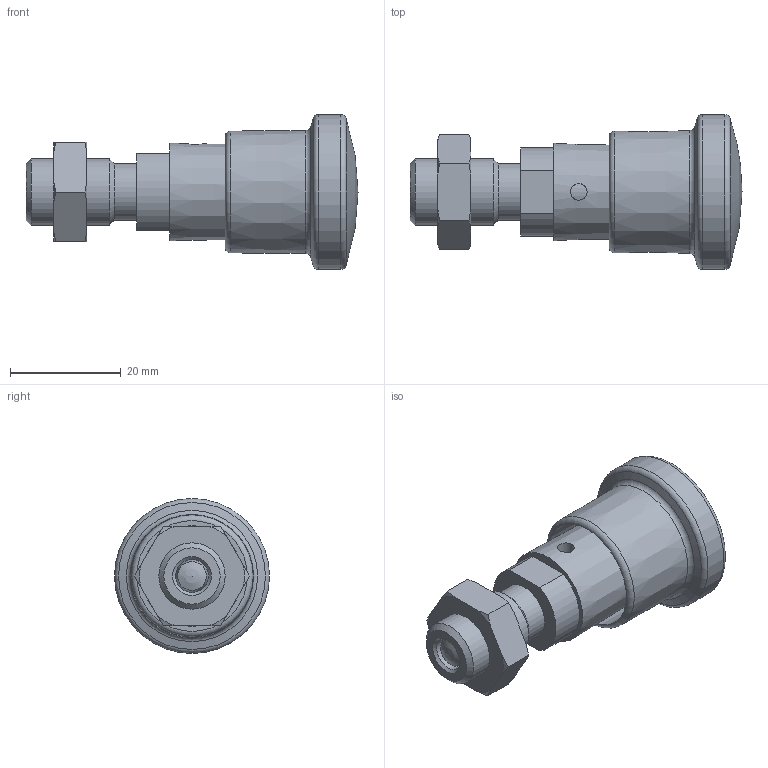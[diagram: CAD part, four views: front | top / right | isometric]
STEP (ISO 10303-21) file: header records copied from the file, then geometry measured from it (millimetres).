
FILE_DESCRIPTION( ( 'STEP AP203' ), '1' );
FILE_NAME( 'C:/Temp/Ganter_Step_05_03_2020/data/3_1/gn816_1/gn_816_1_ark/Locking plunger GN 816.1-6-M12x1,5-ARK (deactivated).stp', '2020-03-12T08:56:14', ( 'License CC BY-ND 4.0' ), ( 'CADENAS' ), ' ', 'PARTsolutions', ' ' );
FILE_SCHEMA( ( 'CONFIG_CONTROL_DESIGN' ) );
Length unit declared in the file: millimetre
Products named in the file (4): Locking plunger GN 816.1-6-M12x1,5-ARK (deactivated); _GN 816.1-6-M12x1,5-AR (deactivated)-2; _GN 816.1-6-M12x1,5-AR (deactivated)-1; _Lock nut ISO 8675 GN 816-6-M12x1,5-AK
Assembly tree (3 placements, depth 2):
  Locking plunger GN 816.1-6-M12x1,5-ARK (deactivated)
    _GN 816.1-6-M12x1,5-AR (deactivated)-2
    _GN 816.1-6-M12x1,5-AR (deactivated)-1
    _Lock nut ISO 8675 GN 816-6-M12x1,5-AK
Bounding box: 60 x 28 x 28 mm (x, y, z)
Volume: 12467.6 mm3; surface area: 9926.4 mm2
Topology: 3 solids, 3 shells, 74 faces, 163 edges, 102 vertices
Faces by surface type: cone 27, plane 22, cylinder 17, torus 6, sphere 2
Full cylindrical faces by diameter (mm): 2.9 x2, 3 x2, 6 x2, 8 x1, 8.1 x1, 10.2 x1, 10.376 x1, 11.1 x1, 12 x1, 18.2 x1, 20.017 x1, 28 x1
Entity records: 2239 total; most frequent: CARTESIAN_POINT 660, DIRECTION 304, ORIENTED_EDGE 234, AXIS2_PLACEMENT_3D 139, EDGE_LOOP 128, EDGE_CURVE 117, VERTEX_POINT 97, FACE_OUTER_BOUND 95
